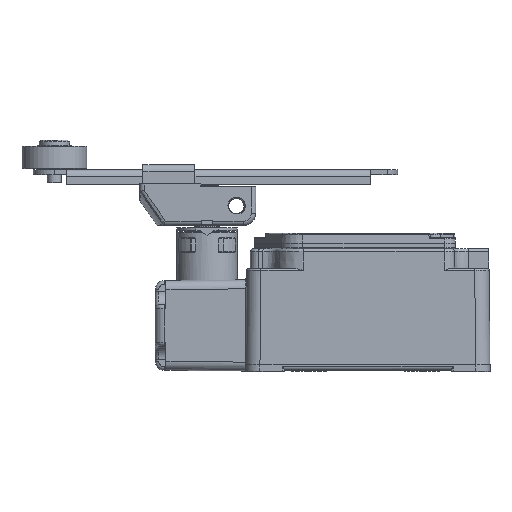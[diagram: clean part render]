
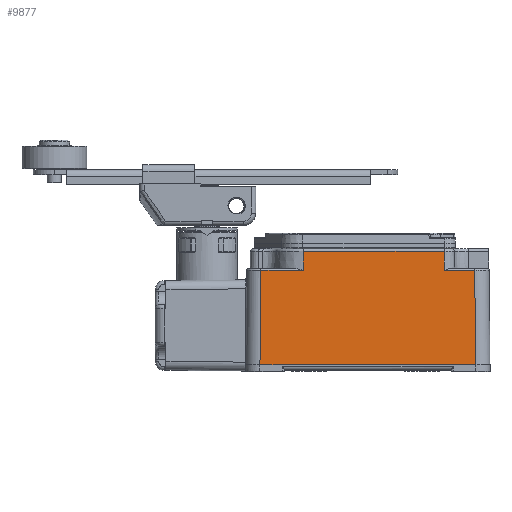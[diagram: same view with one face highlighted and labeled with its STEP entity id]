
A CAD part, front view. The second image highlights one B-rep face of the part: STEP entity #9877.
In plain terms, the highlighted planar face has unit normal (0, -1, 0.014).
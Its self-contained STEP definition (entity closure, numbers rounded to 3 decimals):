
#6870 = VERTEX_POINT('',#6871);
#6871 = CARTESIAN_POINT('',(6437.082,-106.325,
    28.407));
#6880 = EDGE_CURVE('',#6870,#6881,#6883,.T.);
#6881 = VERTEX_POINT('',#6882);
#6882 = CARTESIAN_POINT('',(6437.358,-106.693,
    2.));
#6883 = LINE('',#6884,#6885);
#6884 = CARTESIAN_POINT('',(6437.356,-106.69,
    2.236));
#6885 = VECTOR('',#6886,1.);
#6886 = DIRECTION('',(0.01,-0.014,
    -1.));
#9334 = VERTEX_POINT('',#9335);
#9335 = CARTESIAN_POINT('',(6376.989,-106.693,
    2.));
#9410 = EDGE_CURVE('',#9334,#6881,#9411,.T.);
#9411 = LINE('',#9412,#9413);
#9412 = CARTESIAN_POINT('',(6402.98,-106.693,
    2.));
#9413 = VECTOR('',#9414,1.);
#9414 = DIRECTION('',(1.,0.,0.));
#9854 = EDGE_CURVE('',#9855,#9334,#9857,.T.);
#9855 = VERTEX_POINT('',#9856);
#9856 = CARTESIAN_POINT('',(6377.265,-106.325,
    28.407));
#9857 = LINE('',#9858,#9859);
#9858 = CARTESIAN_POINT('',(6376.992,-106.689,
    2.316));
#9859 = VECTOR('',#9860,1.);
#9860 = DIRECTION('',(-0.01,-0.014,
    -1.));
#9877 = ADVANCED_FACE('',(#9878),#9923,.F.);
#9878 = FACE_BOUND('',#9879,.T.);
#9879 = EDGE_LOOP('',(#9880,#9891,#9899,#9908,#9914,#9915,#9916,#9917));
#9880 = ORIENTED_EDGE('',*,*,#9881,.T.);
#9881 = EDGE_CURVE('',#9882,#9884,#9886,.T.);
#9882 = VERTEX_POINT('',#9883);
#9883 = CARTESIAN_POINT('',(6428.599,-106.325,
    28.407));
#9884 = VERTEX_POINT('',#9885);
#9885 = CARTESIAN_POINT('',(6428.583,-106.251,
    33.711));
#9886 = B_SPLINE_CURVE_WITH_KNOTS('',3,(#9887,#9888,#9889,#9890),
  .UNSPECIFIED.,.F.,.F.,(4,4),(0.,1.),.PIECEWISE_BEZIER_KNOTS.);
#9887 = CARTESIAN_POINT('',(6428.599,-106.325,
    28.407));
#9888 = CARTESIAN_POINT('',(6428.594,-106.3,
    30.175));
#9889 = CARTESIAN_POINT('',(6428.588,-106.275,
    31.943));
#9890 = CARTESIAN_POINT('',(6428.583,-106.251,
    33.711));
#9891 = ORIENTED_EDGE('',*,*,#9892,.T.);
#9892 = EDGE_CURVE('',#9884,#9893,#9895,.T.);
#9893 = VERTEX_POINT('',#9894);
#9894 = CARTESIAN_POINT('',(6389.131,-106.251,
    33.711));
#9895 = LINE('',#9896,#9897);
#9896 = CARTESIAN_POINT('',(6389.135,-106.251,
    33.711));
#9897 = VECTOR('',#9898,1.);
#9898 = DIRECTION('',(-1.,0.,0.));
#9899 = ORIENTED_EDGE('',*,*,#9900,.T.);
#9900 = EDGE_CURVE('',#9893,#9901,#9903,.T.);
#9901 = VERTEX_POINT('',#9902);
#9902 = CARTESIAN_POINT('',(6389.104,-106.325,
    28.407));
#9903 = B_SPLINE_CURVE_WITH_KNOTS('',3,(#9904,#9905,#9906,#9907),
  .UNSPECIFIED.,.F.,.F.,(4,4),(0.,1.),.PIECEWISE_BEZIER_KNOTS.);
#9904 = CARTESIAN_POINT('',(6389.131,-106.251,
    33.711));
#9905 = CARTESIAN_POINT('',(6389.121,-106.275,
    31.943));
#9906 = CARTESIAN_POINT('',(6389.112,-106.3,
    30.175));
#9907 = CARTESIAN_POINT('',(6389.104,-106.325,
    28.407));
#9908 = ORIENTED_EDGE('',*,*,#9909,.T.);
#9909 = EDGE_CURVE('',#9901,#9855,#9910,.T.);
#9910 = LINE('',#9911,#9912);
#9911 = CARTESIAN_POINT('',(6407.174,-106.325,
    28.407));
#9912 = VECTOR('',#9913,1.);
#9913 = DIRECTION('',(-1.,0.,0.));
#9914 = ORIENTED_EDGE('',*,*,#9854,.T.);
#9915 = ORIENTED_EDGE('',*,*,#9410,.T.);
#9916 = ORIENTED_EDGE('',*,*,#6880,.F.);
#9917 = ORIENTED_EDGE('',*,*,#9918,.T.);
#9918 = EDGE_CURVE('',#6870,#9882,#9919,.T.);
#9919 = LINE('',#9920,#9921);
#9920 = CARTESIAN_POINT('',(6428.598,-106.325,
    28.407));
#9921 = VECTOR('',#9922,1.);
#9922 = DIRECTION('',(-1.,0.,0.));
#9923 = PLANE('',#9924);
#9924 = AXIS2_PLACEMENT_3D('',#9925,#9926,#9927);
#9925 = CARTESIAN_POINT('',(6407.174,-106.693,
    2.));
#9926 = DIRECTION('',(0.,1.,
    -0.014));
#9927 = DIRECTION('',(0.,-0.014,-1.));
